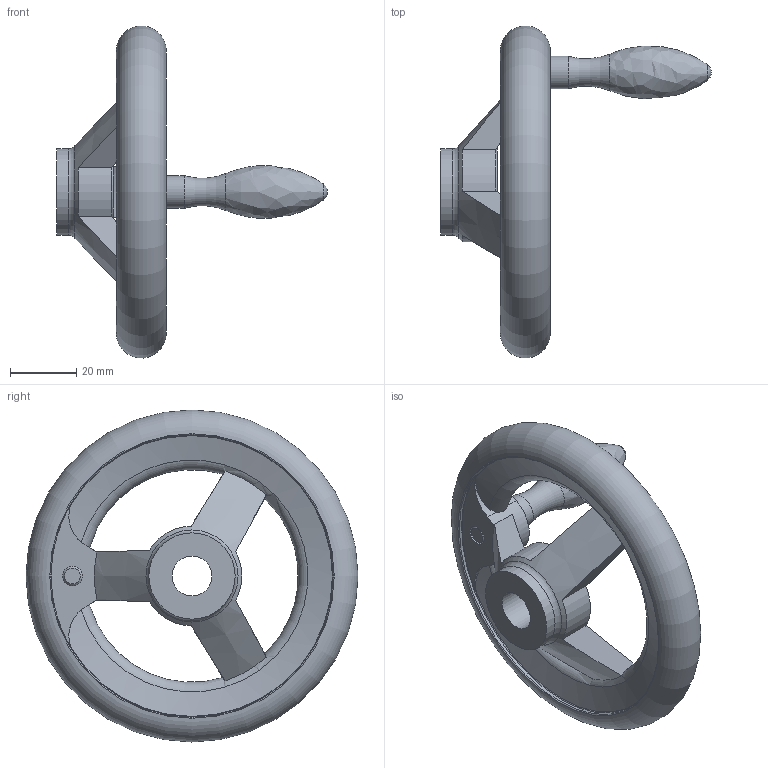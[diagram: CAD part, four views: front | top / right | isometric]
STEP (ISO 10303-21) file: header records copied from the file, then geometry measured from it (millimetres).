
FILE_DESCRIPTION( ( 'STEP AP203' ), '1' );
FILE_NAME( 'C:/Temp/Ganter_Step_05_03_2020/data/1_3/din_950/din_950_b/din_950_b_f/Handwheel DIN 950-GG-100-B12-F.stp', '2020-03-05T10:30:04', ( 'License CC BY-ND 4.0' ), ( 'CADENAS' ), ' ', 'PARTsolutions', ' ' );
FILE_SCHEMA( ( 'CONFIG_CONTROL_DESIGN' ) );
Length unit declared in the file: millimetre
Products named in the file (1): _Handwheel DIN 950-GG-100-B12-F
Bounding box: 81.5 x 99.96 x 99.96 mm (x, y, z)
Volume: 69677.6 mm3; surface area: 21268.6 mm2
Topology: 1 solids, 1 shells, 44 faces, 122 edges, 77 vertices
Faces by surface type: cylinder 15, torus 11, plane 11, cone 5, bspline 1, sphere 1
Full cylindrical faces by diameter (mm): 6 x1, 9.8 x1, 12 x1, 26 x2, 85 x2
Entity records: 1625 total; most frequent: CARTESIAN_POINT 594, DIRECTION 194, ORIENTED_EDGE 192, EDGE_CURVE 96, AXIS2_PLACEMENT_3D 91, VERTEX_POINT 73, EDGE_LOOP 69, FACE_OUTER_BOUND 60
